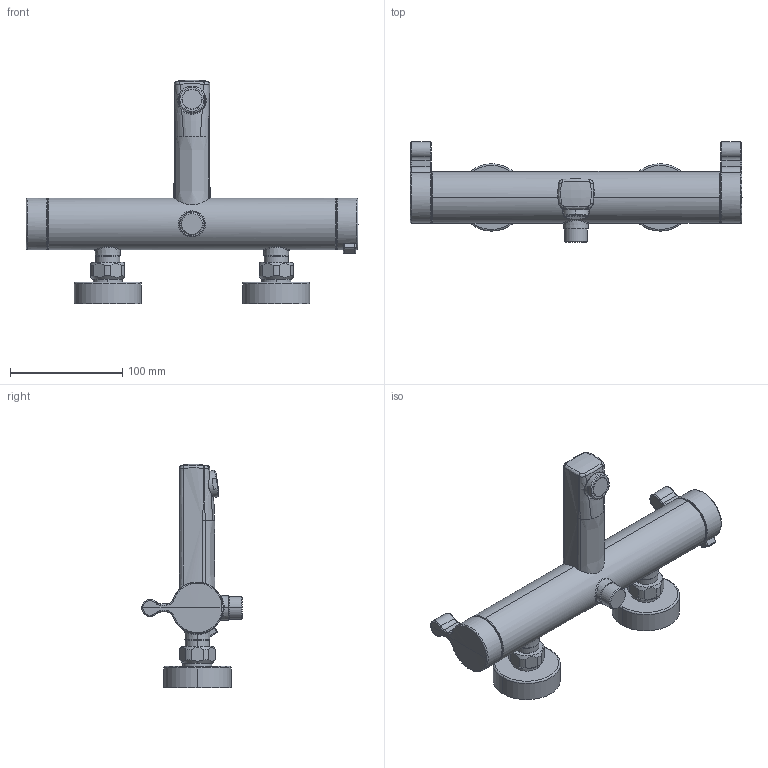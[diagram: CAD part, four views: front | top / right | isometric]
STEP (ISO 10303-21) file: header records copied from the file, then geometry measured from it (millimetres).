
FILE_DESCRIPTION((''),'2;1');
FILE_NAME('26529930','2020-08-26T17:20:04',('SN986'),(''),'CREO PARAMETRIC BY PTC INC, 2018500','CREO PARAMETRIC BY PTC INC, 2018500','');
FILE_SCHEMA(('CONFIG_CONTROL_DESIGN'));
Length unit declared in the file: millimetre
Products named in the file (1): 26529930
Bounding box: 295.65 x 89.5 x 198.85 mm (x, y, z)
Volume: 743663 mm3; surface area: 85967 mm2
Topology: 1 solids, 1 shells, 233 faces, 550 edges, 331 vertices
Faces by surface type: cylinder 60, bspline 56, plane 52, cone 29, torus 28, sphere 8
Entity records: 12780 total; most frequent: CARTESIAN_POINT 7810, ORIENTED_EDGE 1092, DIRECTION 954, EDGE_CURVE 546, AXIS2_PLACEMENT_3D 412, VERTEX_POINT 331, EDGE_LOOP 249, CIRCLE 235
